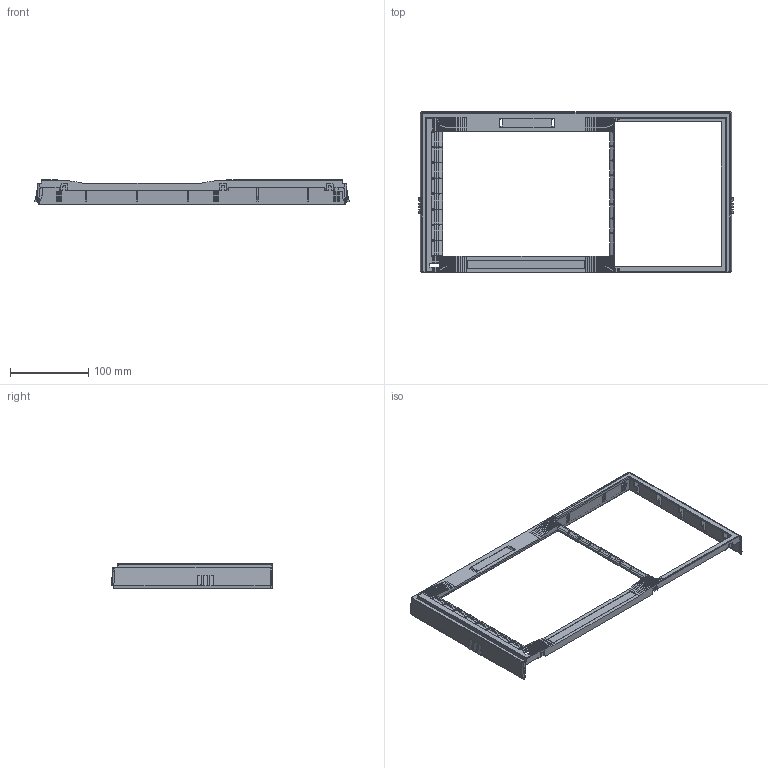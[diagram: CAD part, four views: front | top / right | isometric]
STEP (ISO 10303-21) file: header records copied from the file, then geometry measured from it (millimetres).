
FILE_DESCRIPTION(('FreeCAD Model'),'2;1');
FILE_NAME('D:/Soafile/Visual Printing/181219 Lecroy WaveMaster Parts/Front Panel Frame/lecroy_wavemaster_fp.step','2020-06-26T19:26:29',('Author'),(''), 'Open CASCADE STEP processor 6.8','FreeCAD','Unknown');
FILE_SCHEMA(('AUTOMOTIVE_DESIGN_CC2 { 1 2 10303 214 -1 1 5 4 }'));
Length unit declared in the file: millimetre
Products named in the file (2): ASSEMBLY; lecroy_wavemaster_fp
Assembly tree (1 placements, depth 2):
  ASSEMBLY
    lecroy_wavemaster_fp
Bounding box: 401.14 x 205.32 x 31.1 mm (x, y, z)
Surface area: 102524.8 mm2 (no closed solid volume)
Topology: 0 solids, 2921 shells, 2921 faces, 14162 edges, 14158 vertices
Faces by surface type: bspline 2921
Entity records: 594729 total; most frequent: CARTESIAN_POINT 443818, B_SPLINE_CURVE_WITH_KNOTS 23834, ORIENTED_EDGE 14158, EDGE_CURVE 14158, VERTEX_POINT 14158, SURFACE_CURVE 14158, PCURVE 14158, DEFINITIONAL_REPRESENTATION 14158
